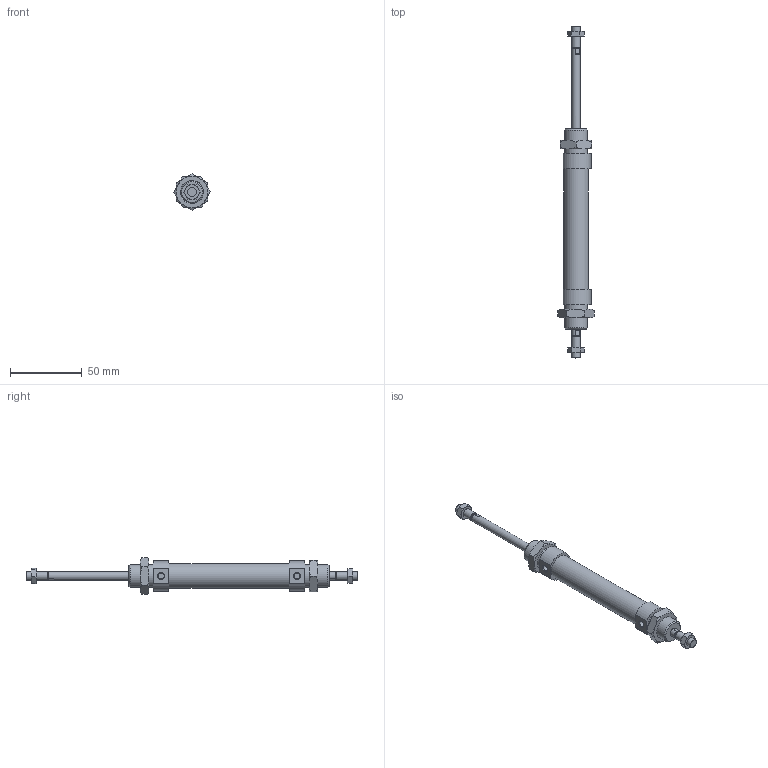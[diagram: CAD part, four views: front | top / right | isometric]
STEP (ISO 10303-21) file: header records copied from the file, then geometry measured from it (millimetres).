
FILE_DESCRIPTION((''),'2;1');
FILE_NAME('I:\Area Tecnica\Disegni\VARIE-3D\Componenti\1280\1282_##_####_#\1282_16_0050.iam.stp','2009-06-03T15:24:35',(''),(''),'Autodesk Inventor 2010','Autodesk Inventor 2010','');
FILE_SCHEMA(('AUTOMOTIVE_DESIGN { 1 0 10303 214 1 1 1 1 }'));
Length unit declared in the file: millimetre
Products named in the file (5): 1282_16_0050; C1282_16_50; S1282_16_50; 1200_16_05; 1200_16_06
Assembly tree (6 placements, depth 2):
  1282_16_0050
    C1282_16_50
    S1282_16_50
    1200_16_05  x2
    1200_16_06  x2
Bounding box: 25.4 x 232 x 25.4 mm (x, y, z)
Volume: 39563 mm3; surface area: 18619.9 mm2
Topology: 6 solids, 6 shells, 135 faces, 283 edges, 168 vertices
Faces by surface type: plane 56, cone 52, bspline 16, cylinder 11
Full cylindrical faces by diameter (mm): 5 x2, 6 x4, 16 x2, 17.2 x1
Entity records: 2543 total; most frequent: CARTESIAN_POINT 619, DIRECTION 358, ORIENTED_EDGE 316, AXIS2_PLACEMENT_3D 159, EDGE_CURVE 158, EDGE_LOOP 124, VERTEX_POINT 106, STYLED_ITEM 93
